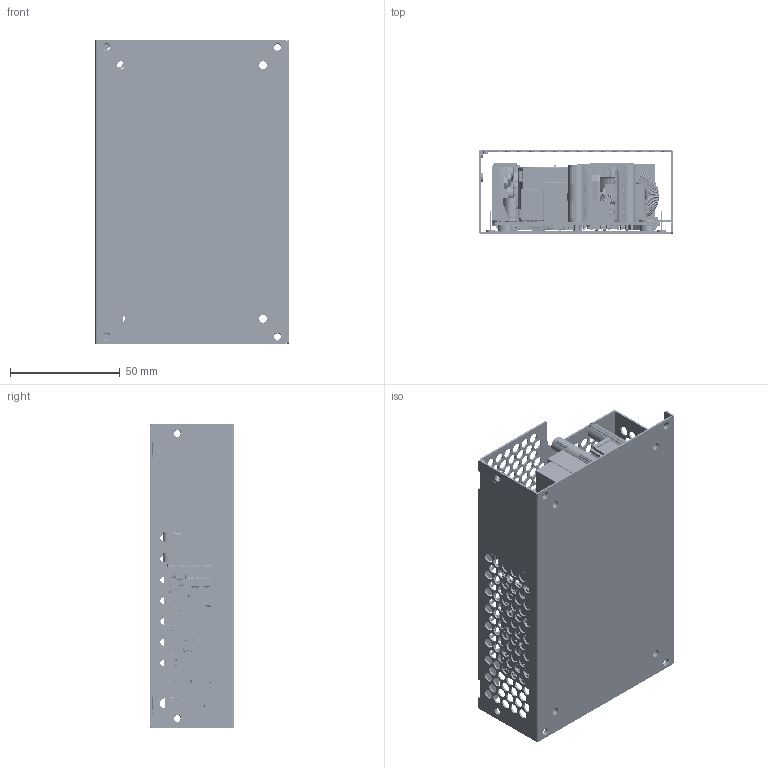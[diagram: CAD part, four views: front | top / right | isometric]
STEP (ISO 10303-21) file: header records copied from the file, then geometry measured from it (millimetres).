
FILE_DESCRIPTION((''),'2;1');
FILE_NAME('CASE_TYPE1_ASM','2025-02-03T19:27:12',('EUNICE.HUANG'),(''),'CREO PARAMETRIC BY PTC INC, 2023294','CREO PARAMETRIC BY PTC INC, 2023294','');
FILE_SCHEMA(('CONFIG_CONTROL_DESIGN','GEOMETRIC_VALIDATION_PROPERTIES_MIM'));
Products named in the file (551): CASE_DOWN_AF0; CASE_UP_AF0; STANFOFF-M3_AF0; STANFOFF-M3_AF2; STANFOFF-M3_AF1; STANFOFF-M3_AF3; BOARD-993; 242907452235; Q2_ASM; 1105045771_IRC-1808-Z2_5; CY16_ASM; I_PIN_1; HS1_49; L_PIN_1; M3_L10_1; NUT-2410_1; M3L10_ASM_1_ASM_ASM; 334777810000_ASM_1_ASM_ASM; HS1-BD1_ASM_ASM; HS1_ASM; Q1_ASM; 0343270142-BODY-24772; 0343270142-COATING-25213; 0343270142-24758_ASM; R40_ASM; 2923144326_L-0805-Z1_5; FB32_ASM; 1552491286-26198; 1552491286-26188_ASM; C42_ASM; C41_ASM; FB31_ASM; R37_ASM; 0341041342-BODY-27613; 0341041342-COATING-28054; 0341041342-27599_ASM; R121_ASM; 0600904104; VR131_ASM; CY8_ASM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
Assembly tree (801 placements, depth 11):
  CASE_TYPE1_ASM
    CASE_DOWN_AF0
    CASE_UP_AF0
    STANFOFF-M3_AF0
    STANFOFF-M3_AF2
    STANFOFF-M3_AF1
    STANFOFF-M3_AF3
    MEP-500A24J_BRAR0C3_ASM
      PCB_ASM
        BOARD-993
        Q2_ASM
          242907452235
        CY16_ASM
          1105045771_IRC-1808-Z2_5
        HS1_ASM
          HS1-BD1_ASM_ASM
            334777810000_ASM_1_ASM_ASM
              I_PIN_1
              HS1_49
              L_PIN_1
              M3L10_ASM_1_ASM_ASM
                M3_L10_1
                NUT-2410_1
        Q1_ASM
          242907452235
        R40_ASM
          0343270142-24758_ASM
            0343270142-BODY-24772
            0343270142-COATING-25213
        FB32_ASM
          2923144326_L-0805-Z1_5
        C42_ASM
          1552491286-26188_ASM
            1552491286-26198
        C41_ASM
          1552491286-26188_ASM
            1552491286-26198
        FB31_ASM
          2923144326_L-0805-Z1_5
        R37_ASM
          0343270142-24758_ASM
            0343270142-BODY-24772
            0343270142-COATING-25213
        R121_ASM
          0341041342-27599_ASM
            0341041342-BODY-27613
            0341041342-COATING-28054
        VR131_ASM
          0600904104
        CY8_ASM
          1105045771_IRC-1808-Z2_5
        CY7_ASM
          1105045771_IRC-1808-Z2_5
        CY6_ASM
          1105045771_IRC-1808-Z2_5
        CY5_ASM
          1105045771_IRC-1808-Z2_5
        CY4_ASM
          1105045771_IRC-1808-Z2_5
        CY2_ASM
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Bounding box: 88.2 x 38.4 x 138.6 mm (x, y, z)
Volume: 135946.9 mm3; surface area: 191413.9 mm2
Topology: 532 solids, 532 shells, 19819 faces, 51703 edges, 32732 vertices
Faces by surface type: plane 10002, cylinder 7000, torus 2173, sphere 294, bspline 273, cone 73, extrusion 4
Entity records: 446182 total; most frequent: CARTESIAN_POINT 103949, DIRECTION 61083, ORIENTED_EDGE 55230, EDGE_CURVE 27615, AXIS2_PLACEMENT_3D 22760, VERTEX_POINT 17566, VECTOR 15563, LINE 15559
